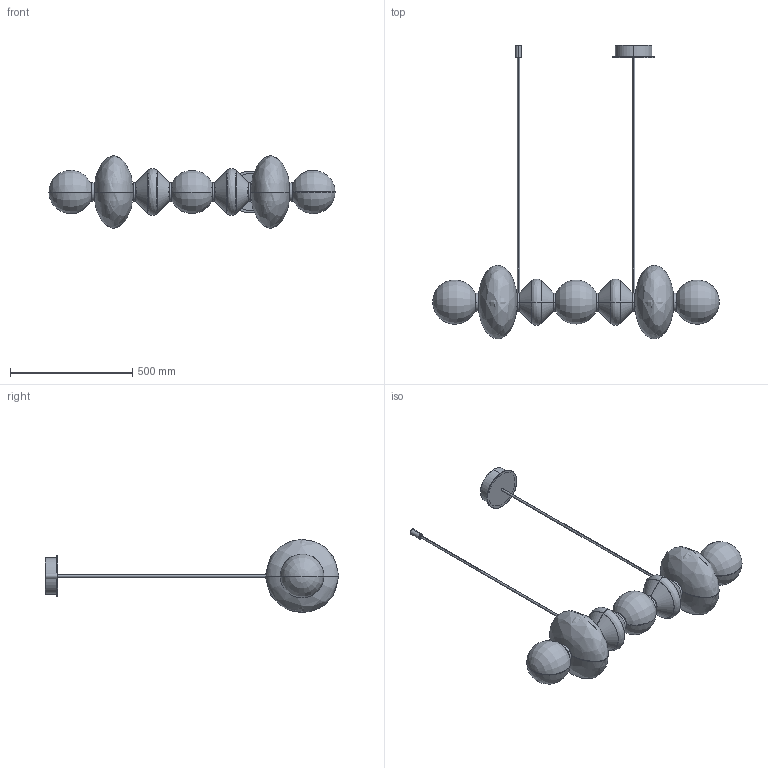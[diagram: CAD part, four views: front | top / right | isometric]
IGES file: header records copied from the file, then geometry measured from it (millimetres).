
Start section: SolidWorks IGES file using analytic representation for surfaces
Global section: file name: C:\Users\adrian\Desktop\MODELADOS USA\MAPI\MAPI_CU11235\MAPI_CU1235.IGS; native system: SolidWorks 2023; preprocessor: SolidWorks 2023; author: adrian; date: 260608.170611; units: inch
Bounding box: 1170.95 x 1199.94 x 300 mm (x, y, z)
Surface area: 1991410.7 mm2 (no closed solid volume)
Topology: 0 solids, 0 shells, 159 faces, 3720 edges, 3718 vertices
Faces by surface type: revolution 88, bspline 71
